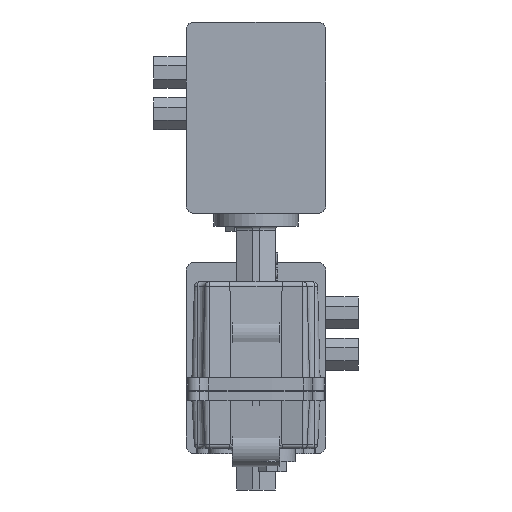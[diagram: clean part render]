
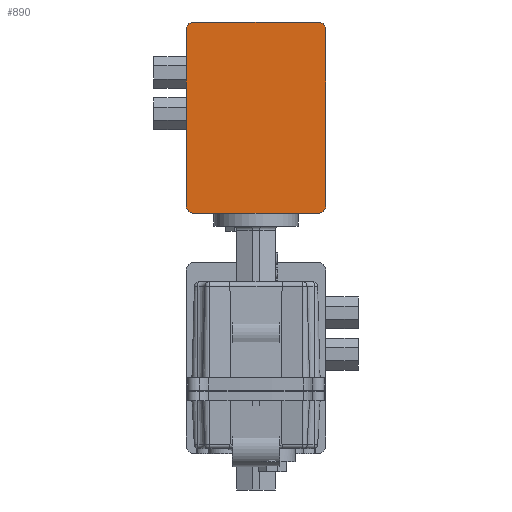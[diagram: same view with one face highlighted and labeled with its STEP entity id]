
A CAD part, left-side view. The second image highlights one B-rep face of the part: STEP entity #890.
In plain terms, the highlighted planar face has unit normal (-1, 0, 0) as drawn and (1, 0, 0) by its records, which use the part's own axes.
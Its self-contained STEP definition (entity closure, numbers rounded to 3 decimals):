
#890 = ADVANCED_FACE( '', ( #2260 ), #2261, .T. );
#2260 = FACE_OUTER_BOUND( '', #5031, .T. );
#2261 = PLANE( '', #5032 );
#5031 = EDGE_LOOP( '', ( #10808, #10809, #10810, #10811, #10812, #10813, #10814, #10815 ) );
#5032 = AXIS2_PLACEMENT_3D( '', #10816, #10817, #10818 );
#10808 = ORIENTED_EDGE( '', *, *, #15825, .T. );
#10809 = ORIENTED_EDGE( '', *, *, #16058, .T. );
#10810 = ORIENTED_EDGE( '', *, *, #16059, .T. );
#10811 = ORIENTED_EDGE( '', *, *, #16060, .T. );
#10812 = ORIENTED_EDGE( '', *, *, #16061, .T. );
#10813 = ORIENTED_EDGE( '', *, *, #16062, .T. );
#10814 = ORIENTED_EDGE( '', *, *, #16063, .T. );
#10815 = ORIENTED_EDGE( '', *, *, #16064, .T. );
#10816 = CARTESIAN_POINT( '', ( 148., -54., -49. ) );
#10817 = DIRECTION( '', ( 1., 0., 0. ) );
#10818 = DIRECTION( '', ( 0., 0., -1. ) );
#15825 = EDGE_CURVE( '', #18257, #18255, #18258, .T. );
#16058 = EDGE_CURVE( '', #18255, #18640, #18641, .T. );
#16059 = EDGE_CURVE( '', #18640, #18642, #18643, .T. );
#16060 = EDGE_CURVE( '', #18642, #18644, #18645, .T. );
#16061 = EDGE_CURVE( '', #18644, #18646, #18647, .T. );
#16062 = EDGE_CURVE( '', #18646, #18648, #18649, .T. );
#16063 = EDGE_CURVE( '', #18648, #18650, #18651, .T. );
#16064 = EDGE_CURVE( '', #18650, #18257, #18652, .T. );
#18255 = VERTEX_POINT( '', #22791 );
#18257 = VERTEX_POINT( '', #22794 );
#18258 = LINE( '', #22795, #22796 );
#18640 = VERTEX_POINT( '', #23715 );
#18641 = CIRCLE( '', #23716, 6. );
#18642 = VERTEX_POINT( '', #23717 );
#18643 = LINE( '', #23718, #23719 );
#18644 = VERTEX_POINT( '', #23720 );
#18645 = CIRCLE( '', #23721, 6. );
#18646 = VERTEX_POINT( '', #23722 );
#18647 = LINE( '', #23723, #23724 );
#18648 = VERTEX_POINT( '', #23725 );
#18649 = CIRCLE( '', #23726, 6. );
#18650 = VERTEX_POINT( '', #23727 );
#18651 = LINE( '', #23728, #23729 );
#18652 = CIRCLE( '', #23730, 6. );
#22791 = CARTESIAN_POINT( '', ( 148., 54., 93. ) );
#22794 = CARTESIAN_POINT( '', ( 148., 54., -43. ) );
#22795 = CARTESIAN_POINT( '', ( 148., 54., -49. ) );
#22796 = VECTOR( '', #29091, 1000. );
#23715 = CARTESIAN_POINT( '', ( 148., 48., 99. ) );
#23716 = AXIS2_PLACEMENT_3D( '', #29340, #29341, #29342 );
#23717 = CARTESIAN_POINT( '', ( 148., -48., 99. ) );
#23718 = CARTESIAN_POINT( '', ( 148., 54., 99. ) );
#23719 = VECTOR( '', #29343, 1000. );
#23720 = CARTESIAN_POINT( '', ( 148., -54., 93. ) );
#23721 = AXIS2_PLACEMENT_3D( '', #29344, #29345, #29346 );
#23722 = CARTESIAN_POINT( '', ( 148., -54., -43. ) );
#23723 = CARTESIAN_POINT( '', ( 148., -54., 99. ) );
#23724 = VECTOR( '', #29347, 1000. );
#23725 = CARTESIAN_POINT( '', ( 148., -48., -49. ) );
#23726 = AXIS2_PLACEMENT_3D( '', #29348, #29349, #29350 );
#23727 = CARTESIAN_POINT( '', ( 148., 48., -49. ) );
#23728 = CARTESIAN_POINT( '', ( 148., -54., -49. ) );
#23729 = VECTOR( '', #29351, 1000. );
#23730 = AXIS2_PLACEMENT_3D( '', #29352, #29353, #29354 );
#29091 = DIRECTION( '', ( 0., 0., 1. ) );
#29340 = CARTESIAN_POINT( '', ( 148., 48., 93. ) );
#29341 = DIRECTION( '', ( 1., 0., 0. ) );
#29342 = DIRECTION( '', ( 0., 0., -1. ) );
#29343 = DIRECTION( '', ( 0., -1., 0. ) );
#29344 = CARTESIAN_POINT( '', ( 148., -48., 93. ) );
#29345 = DIRECTION( '', ( 1., 0., 0. ) );
#29346 = DIRECTION( '', ( 0., 0., -1. ) );
#29347 = DIRECTION( '', ( 0., 0., -1. ) );
#29348 = CARTESIAN_POINT( '', ( 148., -48., -43. ) );
#29349 = DIRECTION( '', ( 1., 0., 0. ) );
#29350 = DIRECTION( '', ( 0., 0., -1. ) );
#29351 = DIRECTION( '', ( 0., 1., 0. ) );
#29352 = CARTESIAN_POINT( '', ( 148., 48., -43. ) );
#29353 = DIRECTION( '', ( 1., 0., 0. ) );
#29354 = DIRECTION( '', ( 0., 0., -1. ) );
